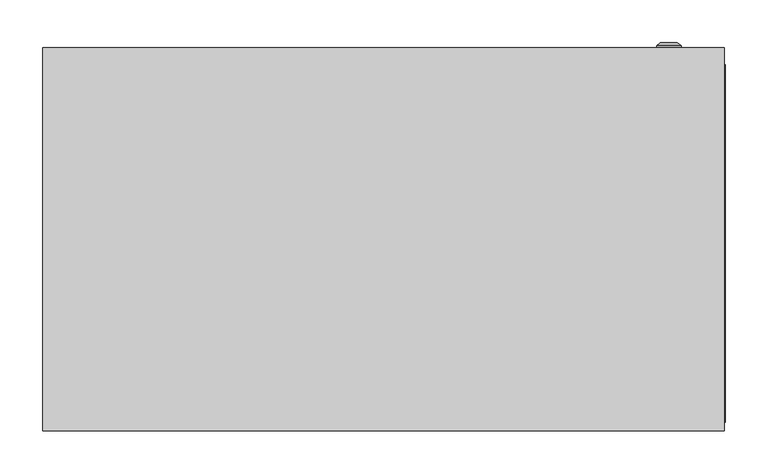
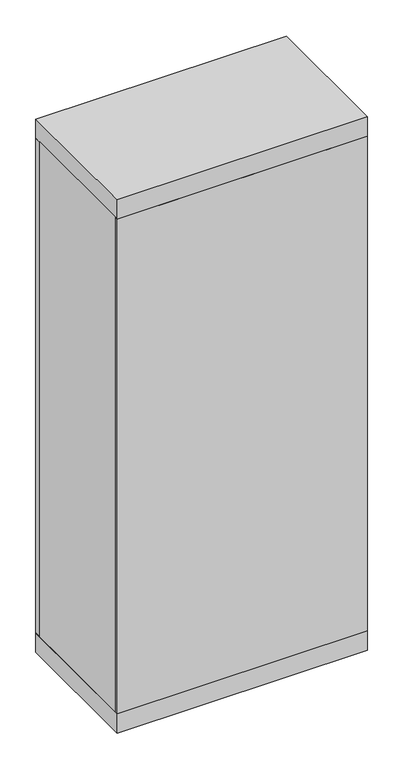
"""IFC4 building model written with IfcOpenShell, lengths in millimetres: proxy geometry, ВРУ-1_IP54 : ВРУ-1_1800х800х450."""

from ifc_helpers import new_model, si_unit, frame, origin, origin_with_axes, place, context, project, spatial, polyline, circle_curve, outline, extrude, source, transform, mapped, element, save
from ifc_brep_helpers import plane_surface, cylinder_surface, revolved_surface, advanced_brep


def electrical_equipment_c49b061d(model_context):
    return source(origin(), model_context, "Body", "SolidModel", [
        extrude(outline(polyline([(400.0, 0.0), (-400.0, 0.0), (-400.0, 10.0), (400.0, 10.0), (400.0, 0.0)])), frame((0.0, 0.0, 65.0187804), z_axis=(0.0, 0.0, 1.0), x_axis=(1.0, 0.0, 0.0)), (0.0, 0.0, 1.0), 1669.9812196),
        extrude(outline(polyline([(-355.8707865, 125.9831461), (-315.8707865, 125.9831461), (-315.8707865, 93.1179775), (-318.8707865, 93.1179775), (-318.8707865, 122.9831461), (-352.8707865, 122.9831461), (-352.8707865, 93.1179775), (-355.8707865, 93.1179775), (-355.8707865, 125.9831461)])), frame((0.0, 0.0, 189.6067416), z_axis=(0.0, 0.0, 1.0), x_axis=(1.0, 0.0, 0.0)), (0.0, 0.0, 1.0), 1545.3932584),
        extrude(outline(polyline([(315.8707865, 125.9831461), (355.8707865, 125.9831461), (355.8707865, 93.1179775), (352.8707865, 93.1179775), (352.8707865, 122.9831461), (318.8707865, 122.9831461), (318.8707865, 93.1179775), (315.8707865, 93.1179775), (315.8707865, 125.9831461)])), frame((0.0, 0.0, 189.6067416), z_axis=(0.0, 0.0, 1.0), x_axis=(1.0, 0.0, 0.0)), (0.0, 0.0, 1.0), 1545.3932584),
        extrude(outline(polyline([(-355.8707865, 10.0), (-365.8707865, 10.0), (-365.8707865, 430.0), (-355.8707865, 430.0), (-355.8707865, 10.0)])), frame((0.0, 0.0, 1645.5966059), z_axis=(0.0, 0.0, 1.0), x_axis=(1.0, 0.0, 0.0)), (0.0, 0.0, 1.0), 53.0898876),
        extrude(outline(polyline([(365.8707865, 10.0), (355.8707865, 10.0), (355.8707865, 430.0), (365.8707865, 430.0), (365.8707865, 10.0)])), frame((0.0, 0.0, 1645.5966059), z_axis=(0.0, 0.0, 1.0), x_axis=(1.0, 0.0, 0.0)), (0.0, 0.0, 1.0), 53.0898876),
        extrude(outline(polyline([(-355.8707865, 10.0), (-365.8707865, 10.0), (-365.8707865, 430.0), (-355.8707865, 430.0), (-355.8707865, 10.0)])), frame((0.0, 0.0, 255.5966059), z_axis=(0.0, 0.0, 1.0), x_axis=(1.0, 0.0, 0.0)), (0.0, 0.0, 1.0), 53.0898876),
        extrude(outline(polyline([(365.8707865, 10.0), (355.8707865, 10.0), (355.8707865, 430.0), (365.8707865, 430.0), (365.8707865, 10.0)])), frame((0.0, 0.0, 255.5966059), z_axis=(0.0, 0.0, 1.0), x_axis=(1.0, 0.0, 0.0)), (0.0, 0.0, 1.0), 53.0898876),
        extrude(outline(polyline([(-355.8707865, 10.0), (-365.8707865, 10.0), (-365.8707865, 430.0), (-355.8707865, 430.0), (-355.8707865, 10.0)])), frame((0.0, 0.0, 835.5966059), z_axis=(0.0, 0.0, 1.0), x_axis=(1.0, 0.0, 0.0)), (0.0, 0.0, 1.0), 53.0898876),
        extrude(outline(polyline([(365.8707865, 10.0), (355.8707865, 10.0), (355.8707865, 430.0), (365.8707865, 430.0), (365.8707865, 10.0)])), frame((0.0, 0.0, 835.5966059), z_axis=(0.0, 0.0, 1.0), x_axis=(1.0, 0.0, 0.0)), (0.0, 0.0, 1.0), 53.0898876),
        extrude(outline(polyline([(1735.0, -400.0), (65.0187804, -400.0), (65.0187804, 401.2640449), (1735.0, 401.2640449), (1735.0, -400.0)]), holes=[polyline([(93.3701084, 365.8707865), (93.3701084, -363.3426966), (1692.9861595, -363.3426966), (1692.9861595, 365.8707865), (93.3701084, 365.8707865)])]), frame((0.0, 10.0, 0.0), z_axis=(0.0, 1.0, 0.0), x_axis=(0.0, 0.0, 1.0)), (0.0, 0.0, 1.0), 420.0),
        extrude(outline(polyline([(400.0067809, 450.0), (400.0067809, 0.0), (-400.0, 0.0), (-400.0, 450.0), (400.0067809, 450.0)])), frame((0.0, 0.0, 1735.0), z_axis=(0.0, 0.0, 1.0), x_axis=(1.0, 0.0, 0.0)), (0.0, 0.0, 1.0), 65.0),
        advanced_brep(
        [(320.669873, 450.0, 415.0), (349.330127, 450.0, 415.0), (335.0, 450.0, 415.0), (320.669873, 452.366592, 415.0), (349.330127, 452.366592, 415.0), (325.0, 456.0, 415.0), (345.0, 456.0, 415.0), (333.1080471, 456.0, 415.0), (336.8919529, 456.0, 415.0), (333.1080471, 454.9822294, 415.0), (336.8919529, 454.9822294, 415.0), (335.0, 454.9822294, 415.0)],
        [
            (0, 1, circle_curve(frame((335.0, 450.0, 415.0), z_axis=(0.0, -1.0, 0.0), x_axis=(1.0, 0.0, 0.0)), 14.330127)),
            (1, 2),
            (2, 0),
            (1, 0, circle_curve(frame((335.0, 450.0, 415.0), z_axis=(0.0, -1.0, 0.0), x_axis=(1.0, 0.0, 0.0)), 14.330127)),
            (3, 4, circle_curve(frame((335.0, 452.366592, 415.0), z_axis=(0.0, -1.0, 0.0), x_axis=(1.0, 0.0, 0.0)), 14.330127)),
            (4, 1),
            (0, 3),
            (4, 3, circle_curve(frame((335.0, 452.366592, 415.0), z_axis=(0.0, -1.0, 0.0), x_axis=(1.0, 0.0, 0.0)), 14.330127)),
            (5, 6, circle_curve(frame((335.0, 456.0, 415.0), z_axis=(0.0, -1.0, 0.0), x_axis=(1.0, 0.0, 0.0)), 10.0)),
            (6, 4),
            (3, 5),
            (6, 5, circle_curve(frame((335.0, 456.0, 415.0), z_axis=(0.0, -1.0, 0.0), x_axis=(1.0, 0.0, 0.0)), 10.0)),
            (7, 8, circle_curve(frame((335.0, 456.0, 415.0), z_axis=(0.0, -1.0, 0.0), x_axis=(1.0, 0.0, 0.0)), 1.8919529)),
            (8, 6),
            (5, 7),
            (8, 7, circle_curve(frame((335.0, 456.0, 415.0), z_axis=(0.0, -1.0, 0.0), x_axis=(1.0, 0.0, 0.0)), 1.8919529)),
            (9, 10, circle_curve(frame((335.0, 454.9822294, 415.0), z_axis=(0.0, -1.0, 0.0), x_axis=(1.0, 0.0, 0.0)), 1.8919529)),
            (10, 8),
            (7, 9),
            (10, 9, circle_curve(frame((335.0, 454.9822294, 415.0), z_axis=(0.0, -1.0, 0.0), x_axis=(1.0, 0.0, 0.0)), 1.8919529)),
            (11, 10),
            (9, 11),
        ],
        [
            plane_surface(frame((335.0, 450.0, 415.0), z_axis=(0.0, -1.0, 0.0), x_axis=(1.0, 0.0, 0.0))),
            cylinder_surface(frame((335.0, 463.1348851, 415.0), z_axis=(0.0, 1.0, 0.0), x_axis=(1.0, 0.0, 0.0)), 14.330127),
            revolved_surface(polyline([(349.330127, 452.366592, 415.0), (345.0, 456.0, 415.0)]), (335.0, 463.1348851, 415.0), (0.0, 1.0, 0.0)),
            plane_surface(frame((335.0, 456.0, 415.0), z_axis=(0.0, 1.0, 0.0), x_axis=(1.0, 0.0, 0.0))),
            revolved_surface(polyline([(336.8919529, 456.0, 415.0), (336.8919529, 454.9822294, 415.0)]), (335.0, 463.1348851, 415.0), (0.0, 1.0, 0.0)),
            plane_surface(frame((335.0, 454.9822294, 415.0), z_axis=(0.0, 1.0, 0.0), x_axis=(1.0, 0.0, 0.0))),
        ],
        [
            (0, [[1, 2, 3]]),
            (0, [[4, -3, -2]]),
            (1, [[5, 6, -1, 7]]),
            (1, [[8, -7, -4, -6]]),
            (2, [[9, 10, -5, 11]]),
            (2, [[12, -11, -8, -10]]),
            (3, [[13, 14, -9, 15]]),
            (3, [[16, -15, -12, -14]]),
            (4, [[17, 18, -13, 19]]),
            (4, [[20, -19, -16, -18]]),
            (5, [[21, -17, 22]]),
            (5, [[-22, -20, -21]]),
        ],
    ),
        advanced_brep(
        [(320.669873, 450.0, 1385.0), (349.330127, 450.0, 1385.0), (335.0, 450.0, 1385.0), (320.669873, 452.366592, 1385.0), (349.330127, 452.366592, 1385.0), (325.0, 456.0, 1385.0), (345.0, 456.0, 1385.0), (333.1080471, 456.0, 1385.0), (336.8919529, 456.0, 1385.0), (333.1080471, 454.9822294, 1385.0), (336.8919529, 454.9822294, 1385.0), (335.0, 454.9822294, 1385.0)],
        [
            (0, 1, circle_curve(frame((335.0, 450.0, 1385.0), z_axis=(0.0, -1.0, 0.0), x_axis=(1.0, 0.0, 0.0)), 14.330127)),
            (1, 2),
            (2, 0),
            (1, 0, circle_curve(frame((335.0, 450.0, 1385.0), z_axis=(0.0, -1.0, 0.0), x_axis=(1.0, 0.0, 0.0)), 14.330127)),
            (3, 4, circle_curve(frame((335.0, 452.366592, 1385.0), z_axis=(0.0, -1.0, 0.0), x_axis=(1.0, 0.0, 0.0)), 14.330127)),
            (4, 1),
            (0, 3),
            (4, 3, circle_curve(frame((335.0, 452.366592, 1385.0), z_axis=(0.0, -1.0, 0.0), x_axis=(1.0, 0.0, 0.0)), 14.330127)),
            (5, 6, circle_curve(frame((335.0, 456.0, 1385.0), z_axis=(0.0, -1.0, 0.0), x_axis=(1.0, 0.0, 0.0)), 10.0)),
            (6, 4),
            (3, 5),
            (6, 5, circle_curve(frame((335.0, 456.0, 1385.0), z_axis=(0.0, -1.0, 0.0), x_axis=(1.0, 0.0, 0.0)), 10.0)),
            (7, 8, circle_curve(frame((335.0, 456.0, 1385.0), z_axis=(0.0, -1.0, 0.0), x_axis=(1.0, 0.0, 0.0)), 1.8919529)),
            (8, 6),
            (5, 7),
            (8, 7, circle_curve(frame((335.0, 456.0, 1385.0), z_axis=(0.0, -1.0, 0.0), x_axis=(1.0, 0.0, 0.0)), 1.8919529)),
            (9, 10, circle_curve(frame((335.0, 454.9822294, 1385.0), z_axis=(0.0, -1.0, 0.0), x_axis=(1.0, 0.0, 0.0)), 1.8919529)),
            (10, 8),
            (7, 9),
            (10, 9, circle_curve(frame((335.0, 454.9822294, 1385.0), z_axis=(0.0, -1.0, 0.0), x_axis=(1.0, 0.0, 0.0)), 1.8919529)),
            (11, 10),
            (9, 11),
        ],
        [
            plane_surface(frame((335.0, 450.0, 1385.0), z_axis=(0.0, -1.0, 0.0), x_axis=(1.0, 0.0, 0.0))),
            cylinder_surface(frame((335.0, 463.1348851, 1385.0), z_axis=(0.0, 1.0, 0.0), x_axis=(1.0, 0.0, 0.0)), 14.330127),
            revolved_surface(polyline([(349.330127, 452.366592, 1385.0), (345.0, 456.0, 1385.0)]), (335.0, 463.1348851, 1385.0), (0.0, 1.0, 0.0)),
            plane_surface(frame((335.0, 456.0, 1385.0), z_axis=(0.0, 1.0, 0.0), x_axis=(1.0, 0.0, 0.0))),
            revolved_surface(polyline([(336.8919529, 456.0, 1385.0), (336.8919529, 454.9822294, 1385.0)]), (335.0, 463.1348851, 1385.0), (0.0, 1.0, 0.0)),
            plane_surface(frame((335.0, 454.9822294, 1385.0), z_axis=(0.0, 1.0, 0.0), x_axis=(1.0, 0.0, 0.0))),
        ],
        [
            (0, [[1, 2, 3]]),
            (0, [[4, -3, -2]]),
            (1, [[5, 6, -1, 7]]),
            (1, [[8, -7, -4, -6]]),
            (2, [[9, 10, -5, 11]]),
            (2, [[12, -11, -8, -10]]),
            (3, [[13, 14, -9, 15]]),
            (3, [[16, -15, -12, -14]]),
            (4, [[17, 18, -13, 19]]),
            (4, [[20, -19, -16, -18]]),
            (5, [[21, -17, 22]]),
            (5, [[-22, -20, -21]]),
        ],
    ),
        extrude(outline(polyline([(400.0067809, 450.0), (400.0067809, 0.0), (-400.0, 0.0), (-400.0, 450.0), (400.0067809, 450.0)])), origin_with_axes(), (0.0, 0.0, 1.0), 65.0187804),
        extrude(outline(polyline([(400.0, 430.0), (-400.0, 430.0), (-400.0, 450.0), (400.0, 450.0), (400.0, 430.0)])), frame((0.0, 0.0, 65.0187804), z_axis=(0.0, 0.0, 1.0), x_axis=(1.0, 0.0, 0.0)), (0.0, 0.0, 1.0), 1669.9812196),
    ])


if __name__ == "__main__":
    model = new_model("IFC4")
    model_context = context("Model", 3, world=origin())
    ifc_project = project(units=[si_unit("LENGTHUNIT", "METRE", prefix="MILLI")], contexts=[model_context])
    site = spatial("IfcSite", under=ifc_project)
    building = spatial("IfcBuilding", under=site)
    placement = place(None, origin())
    electrical_equipment_shape = electrical_equipment_c49b061d(model_context)
    element("IfcBuildingElementProxy", 1, Name="ВРУ-1_IP54 : ВРУ-1_1800х800х450", ObjectType="ВРУ-1_IP54 : ВРУ-1_1800х800х450", at=placement, inside=building, context=model_context, shape_type="MappedRepresentation", body=[
        mapped(electrical_equipment_shape, transform((0.0, 0.0, 0.0), x_axis=(1.0, 0.0, 0.0), y_axis=(0.0, 1.0, 0.0), z_axis=(0.0, 0.0, 1.0))),
    ])
    save(model, "model.ifc")
